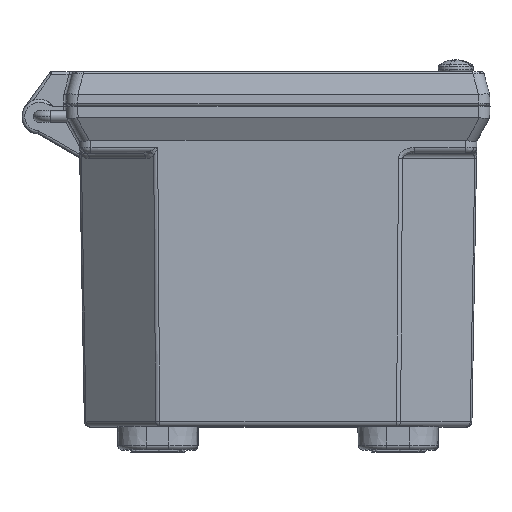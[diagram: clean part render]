
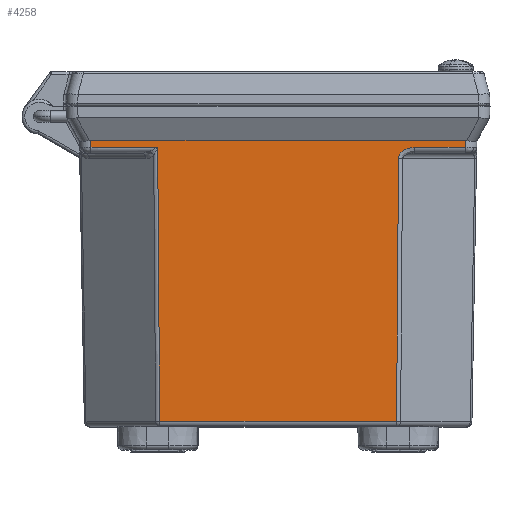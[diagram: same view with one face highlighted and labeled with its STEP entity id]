
A CAD part, top view. The second image highlights one B-rep face of the part: STEP entity #4258.
In plain terms, the highlighted planar face has unit normal (0, -0.018, 1).
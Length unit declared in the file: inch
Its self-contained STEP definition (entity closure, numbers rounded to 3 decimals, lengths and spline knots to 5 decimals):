
#337 = DIRECTION ( 'NONE',  ( 1., 0., 0. ) ) ;
#883 = VECTOR ( 'NONE', #90461, 39.37008 ) ;
#1029 = VERTEX_POINT ( 'NONE', #8660 ) ;
#2848 = CARTESIAN_POINT ( 'NONE',  ( 1.31352, -0.57441, 2.16536 ) ) ;
#3771 = CARTESIAN_POINT ( 'NONE',  ( 1.31352, -0.57441, 2.16536 ) ) ;
#3804 = EDGE_CURVE ( 'NONE', #56235, #81152, #83774, .T. ) ;
#4078 = VECTOR ( 'NONE', #14222, 39.37008 ) ;
#4148 = DIRECTION ( 'NONE',  ( 0.007, 1., 0.017 ) ) ;
#4258 = ADVANCED_FACE ( 'NONE', ( #69429 ), #35006, .T. ) ;
#4571 = VERTEX_POINT ( 'NONE', #88642 ) ;
#5344 = ORIENTED_EDGE ( 'NONE', *, *, #3804, .T. ) ;
#7162 = CARTESIAN_POINT ( 'NONE',  ( 1.48812, -0.45159, 2.16751 ) ) ;
#7781 = CARTESIAN_POINT ( 'NONE',  ( -1.31396, -0.45159, 2.16751 ) ) ;
#8257 = DIRECTION ( 'NONE',  ( 1., 0., 0. ) ) ;
#8660 = CARTESIAN_POINT ( 'NONE',  ( -1.31441, -0.45159, 2.16751 ) ) ;
#9000 = ORIENTED_EDGE ( 'NONE', *, *, #62957, .F. ) ;
#10330 = VERTEX_POINT ( 'NONE', #35794 ) ;
#10788 = CARTESIAN_POINT ( 'NONE',  ( 1.29281, -3.43859, 2.11537 ) ) ;
#12508 = EDGE_CURVE ( 'NONE', #47908, #59675, #66074, .T. ) ;
#14222 = DIRECTION ( 'NONE',  ( 1., 0., 0. ) ) ;
#19295 = EDGE_CURVE ( 'NONE', #59675, #4571, #74023, .T. ) ;
#19351 = CARTESIAN_POINT ( 'NONE',  ( 2.30813, -0.375, 2.16884 ) ) ;
#19600 = ORIENTED_EDGE ( 'NONE', *, *, #47329, .T. ) ;
#20137 = DIRECTION ( 'NONE',  ( 0., -0.017, 1. ) ) ;
#20239 = VECTOR ( 'NONE', #8257, 39.37008 ) ;
#28095 = DIRECTION ( 'NONE',  ( 0., -1., -0.017 ) ) ;
#29902 = VECTOR ( 'NONE', #79521, 39.37008 ) ;
#33424 = VECTOR ( 'NONE', #37733, 39.37008 ) ;
#34945 = ORIENTED_EDGE ( 'NONE', *, *, #63924, .T. ) ;
#35006 = PLANE ( 'NONE',  #90307 ) ;
#35794 = CARTESIAN_POINT ( 'NONE',  ( -2.04253, -0.45159, 2.16751 ) ) ;
#37733 = DIRECTION ( 'NONE',  ( 0.017, -1., -0.017 ) ) ;
#37983 = ORIENTED_EDGE ( 'NONE', *, *, #12508, .T. ) ;
#39594 = LINE ( 'NONE', #86822, #20239 ) ;
#44106 = CARTESIAN_POINT ( 'NONE',  ( 1.48812, -0.45159, 2.16751 ) ) ;
#44872 = CARTESIAN_POINT ( 'NONE',  ( -1.29281, -3.43859, 2.11537 ) ) ;
#45162 = CARTESIAN_POINT ( 'NONE',  ( 1.386, -0.45159, 2.16751 ) ) ;
#46066 = LINE ( 'NONE', #94885, #4078 ) ;
#47063 = ORIENTED_EDGE ( 'NONE', *, *, #51481, .T. ) ;
#47329 = EDGE_CURVE ( 'NONE', #1029, #55989, #78261, .T. ) ;
#47908 = VERTEX_POINT ( 'NONE', #49417 ) ;
#49417 = CARTESIAN_POINT ( 'NONE',  ( 2.04253, -0.45159, 2.16751 ) ) ;
#49450 = EDGE_LOOP ( 'NONE', ( #19600, #71650, #5344, #9000, #47063, #37983, #88157, #34945, #69324 ) ) ;
#51481 = EDGE_CURVE ( 'NONE', #60061, #47908, #46066, .T. ) ;
#52428 = CARTESIAN_POINT ( 'NONE',  ( 1.31496, -0.37481, 2.16885 ) ) ;
#55989 = VERTEX_POINT ( 'NONE', #44872 ) ;
#56235 = VERTEX_POINT ( 'NONE', #10788 ) ;
#59675 = VERTEX_POINT ( 'NONE', #61445 ) ;
#60061 = VERTEX_POINT ( 'NONE', #7162 ) ;
#60953 = CARTESIAN_POINT ( 'NONE',  ( 1.34084, -0.375, 2.16884 ) ) ;
#61445 = CARTESIAN_POINT ( 'NONE',  ( 2.04386, -0.375, 2.16884 ) ) ;
#62957 = EDGE_CURVE ( 'NONE', #60061, #81152, #68768, .T. ) ;
#63069 = CARTESIAN_POINT ( 'NONE',  ( 2.04365, -0.38726, 2.16863 ) ) ;
#63924 = EDGE_CURVE ( 'NONE', #4571, #10330, #84973, .T. ) ;
#66074 = LINE ( 'NONE', #63069, #29902 ) ;
#66850 = EDGE_CURVE ( 'NONE', #55989, #56235, #39594, .T. ) ;
#68768 =( BOUNDED_CURVE ( )  B_SPLINE_CURVE ( 3, ( #44106, #45162, #77531, #3771 ),
 .UNSPECIFIED., .F., .F. ) 
 B_SPLINE_CURVE_WITH_KNOTS ( ( 4, 4 ),
 ( 1.59548, 3.14882 ),
 .UNSPECIFIED. ) 
 CURVE ( )  GEOMETRIC_REPRESENTATION_ITEM ( )  RATIONAL_B_SPLINE_CURVE ( ( 1., 0.809, 0.809, 1. ) ) 
 REPRESENTATION_ITEM ( '' )  );
#69257 = CARTESIAN_POINT ( 'NONE',  ( -1.31482, -0.39419, 2.16851 ) ) ;
#69324 = ORIENTED_EDGE ( 'NONE', *, *, #78551, .T. ) ;
#69429 = FACE_OUTER_BOUND ( 'NONE', #49450, .T. ) ;
#70091 = CARTESIAN_POINT ( 'NONE',  ( -2.04283, -0.43404, 2.16781 ) ) ;
#71650 = ORIENTED_EDGE ( 'NONE', *, *, #66850, .T. ) ;
#74023 = LINE ( 'NONE', #19351, #883 ) ;
#75682 = VECTOR ( 'NONE', #337, 39.37008 ) ;
#77531 = CARTESIAN_POINT ( 'NONE',  ( 1.31404, -0.50221, 2.16662 ) ) ;
#78261 = LINE ( 'NONE', #69257, #91665 ) ;
#78551 = EDGE_CURVE ( 'NONE', #10330, #1029, #79976, .T. ) ;
#79521 = DIRECTION ( 'NONE',  ( 0.017, 1., 0.017 ) ) ;
#79976 = LINE ( 'NONE', #7781, #75682 ) ;
#81152 = VERTEX_POINT ( 'NONE', #2848 ) ;
#83085 = VECTOR ( 'NONE', #4148, 39.37008 ) ;
#83774 = LINE ( 'NONE', #52428, #83085 ) ;
#84973 = LINE ( 'NONE', #70091, #33424 ) ;
#86822 = CARTESIAN_POINT ( 'NONE',  ( 1.29237, -3.43859, 2.11537 ) ) ;
#88157 = ORIENTED_EDGE ( 'NONE', *, *, #19295, .T. ) ;
#88642 = CARTESIAN_POINT ( 'NONE',  ( -2.04386, -0.375, 2.16884 ) ) ;
#90307 = AXIS2_PLACEMENT_3D ( 'NONE', #60953, #20137, #28095 ) ;
#90461 = DIRECTION ( 'NONE',  ( -1., 0., 0. ) ) ;
#91665 = VECTOR ( 'NONE', #101623, 39.37008 ) ;
#94885 = CARTESIAN_POINT ( 'NONE',  ( 2.04145, -0.45159, 2.16751 ) ) ;
#101623 = DIRECTION ( 'NONE',  ( 0.007, -1., -0.017 ) ) ;
